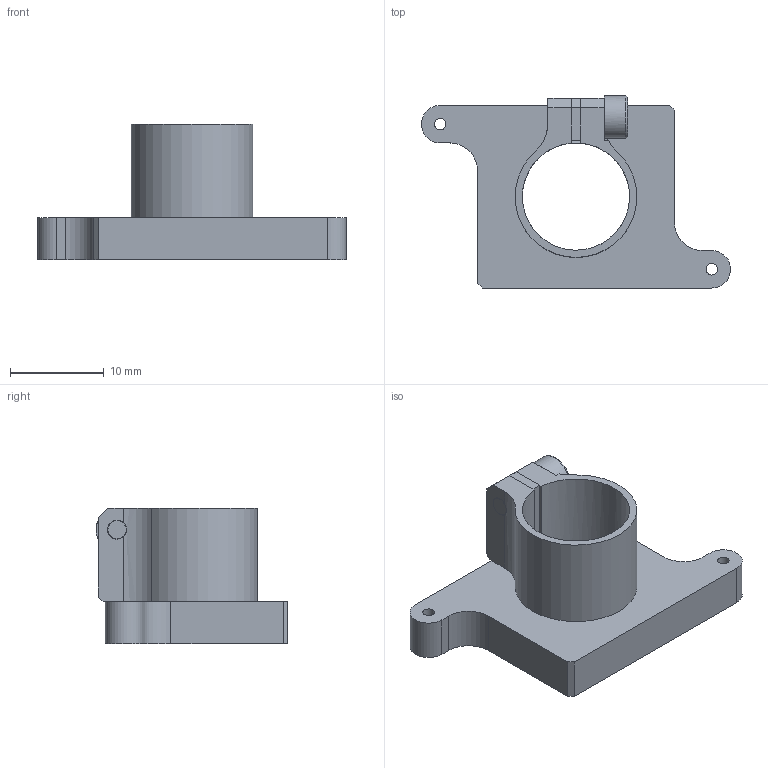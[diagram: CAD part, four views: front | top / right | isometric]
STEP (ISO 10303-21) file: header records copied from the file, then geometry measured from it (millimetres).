
FILE_DESCRIPTION(/* description */ (''),/* implementation_level */ '2;1');
FILE_NAME(/* name */ 'KSM_236-17-0-10-01_ZB MLH 10 mm (Schraube+Silikon).stp',/* time_stamp */ '2026-01-16T23:32:29+01:00',/* author */ ('khw'),/* organization */ ('TIS/ Germany'),/* preprocessor_version */ 'ST-DEVELOPER v20',/* originating_system */ 'Autodesk Inventor 2025',/* authorisation */ '6767,5 mm^3');
FILE_SCHEMA (('AUTOMOTIVE_DESIGN { 1 0 10303 214 3 1 1 }'));
Length unit declared in the file: millimetre
Products named in the file (1): KSM_236-17-0-10-01_ZB MLH 10 mm (Schraube+Silikon)
Bounding box: 33 x 20.5 x 14.5 mm (x, y, z)
Volume: 1323.2 mm3; surface area: 2388 mm2
Topology: 1 solids, 1 shells, 66 faces, 178 edges, 114 vertices
Faces by surface type: plane 45, cylinder 18, cone 2, torus 1
Full cylindrical faces by diameter (mm): 1.221 x2, 2.013 x1, 4.5 x1, 11.459 x1
Entity records: 2209 total; most frequent: CARTESIAN_POINT 400, ORIENTED_EDGE 354, DIRECTION 343, EDGE_CURVE 177, LINE 123, VECTOR 123, VERTEX_POINT 114, AXIS2_PLACEMENT_3D 110
